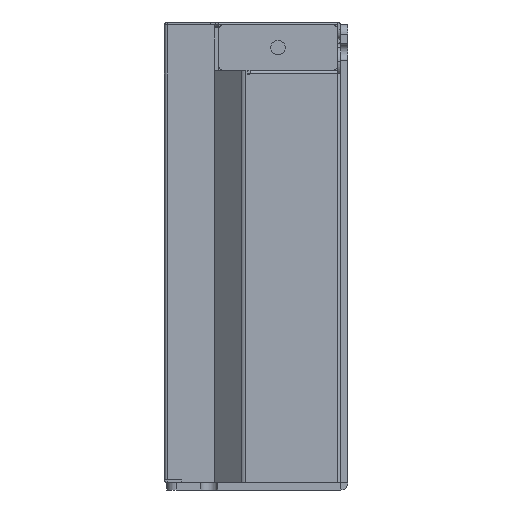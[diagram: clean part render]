
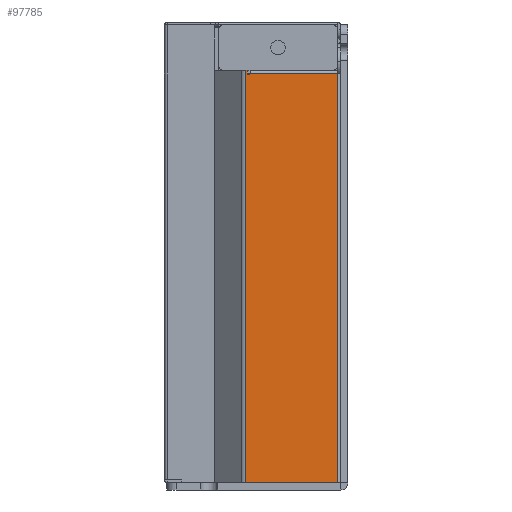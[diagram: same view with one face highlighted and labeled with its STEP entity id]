
A CAD part, left-side view. The second image highlights one B-rep face of the part: STEP entity #97785.
In plain terms, the highlighted planar face has unit normal (-1, 0, 0).
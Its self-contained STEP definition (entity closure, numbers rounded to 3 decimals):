
#55777=DIRECTION('',(0.,0.,1.));
#55778=VECTOR('',#55777,0.3);
#55779=CARTESIAN_POINT('',(-67.45,-37.85,-17.149));
#55780=LINE('',#55779,#55778);
#55841=DIRECTION('',(0.,1.,0.));
#55842=VECTOR('',#55841,85.5);
#55843=CARTESIAN_POINT('',(-67.45,-37.85,-16.849));
#55844=LINE('',#55843,#55842);
#55849=CARTESIAN_POINT('',(-67.45,-37.25,-17.449));
#55850=DIRECTION('',(-1.,0.,0.));
#55851=DIRECTION('',(0.,0.,1.));
#55852=AXIS2_PLACEMENT_3D('',#55849,#55850,#55851);
#55858=DIRECTION('',(0.,0.,1.));
#55859=VECTOR('',#55858,18.151);
#55860=CARTESIAN_POINT('',(-67.45,-37.25,-35.9));
#55861=LINE('',#55860,#55859);
#55996=DIRECTION('',(0.,-1.,0.));
#55997=VECTOR('',#55996,0.6);
#55998=CARTESIAN_POINT('',(-67.45,-37.25,-17.149));
#55999=LINE('',#55998,#55997);
#56021=DIRECTION('',(0.,0.,-1.));
#56022=VECTOR('',#56021,19.051);
#56023=CARTESIAN_POINT('',(-67.45,47.65,-16.849));
#56024=LINE('',#56023,#56022);
#56038=DIRECTION('',(0.,-1.,0.));
#56039=VECTOR('',#56038,84.9);
#56040=CARTESIAN_POINT('',(-67.45,47.65,-35.9));
#56041=LINE('',#56040,#56039);
#87333=CARTESIAN_POINT('',(-67.45,-37.85,-17.149));
#87334=VERTEX_POINT('',#87333);
#87335=CARTESIAN_POINT('',(-67.45,-37.85,-16.849));
#87336=VERTEX_POINT('',#87335);
#87343=CARTESIAN_POINT('',(-67.45,47.65,-16.849));
#87344=VERTEX_POINT('',#87343);
#87345=CARTESIAN_POINT('',(-67.45,-37.25,-35.9));
#87346=CARTESIAN_POINT('',(-67.45,-37.25,-17.749));
#87347=VERTEX_POINT('',#87345);
#87348=VERTEX_POINT('',#87346);
#87349=CARTESIAN_POINT('',(-67.45,47.65,-35.9));
#87350=VERTEX_POINT('',#87349);
#87351=CARTESIAN_POINT('',(-67.45,-37.25,-17.149));
#87352=VERTEX_POINT('',#87351);
#97766=CARTESIAN_POINT('',(-67.45,25.102,-16.6));
#97767=DIRECTION('',(1.,0.,0.));
#97768=DIRECTION('',(0.,-1.,0.));
#97769=AXIS2_PLACEMENT_3D('',#97766,#97767,#97768);
#97770=PLANE('',#97769);
#97772=ORIENTED_EDGE('',*,*,#97771,.F.);
#97774=ORIENTED_EDGE('',*,*,#97773,.F.);
#97776=ORIENTED_EDGE('',*,*,#97775,.F.);
#97777=ORIENTED_EDGE('',*,*,#97759,.F.);
#97778=ORIENTED_EDGE('',*,*,#97663,.F.);
#97780=ORIENTED_EDGE('',*,*,#97779,.F.);
#97782=ORIENTED_EDGE('',*,*,#97781,.T.);
#97783=EDGE_LOOP('',(#97772,#97774,#97776,#97777,#97778,#97780,#97782));
#97784=FACE_OUTER_BOUND('',#97783,.F.);
#55853=CIRCLE('',#55852,0.3);
#97663=EDGE_CURVE('',#87334,#87336,#55780,.T.);
#97759=EDGE_CURVE('',#87336,#87344,#55844,.T.);
#97771=EDGE_CURVE('',#87347,#87348,#55861,.T.);
#97773=EDGE_CURVE('',#87350,#87347,#56041,.T.);
#97775=EDGE_CURVE('',#87344,#87350,#56024,.T.);
#97779=EDGE_CURVE('',#87352,#87334,#55999,.T.);
#97781=EDGE_CURVE('',#87352,#87348,#55853,.T.);
#97785=ADVANCED_FACE('',(#97784),#97770,.F.);
